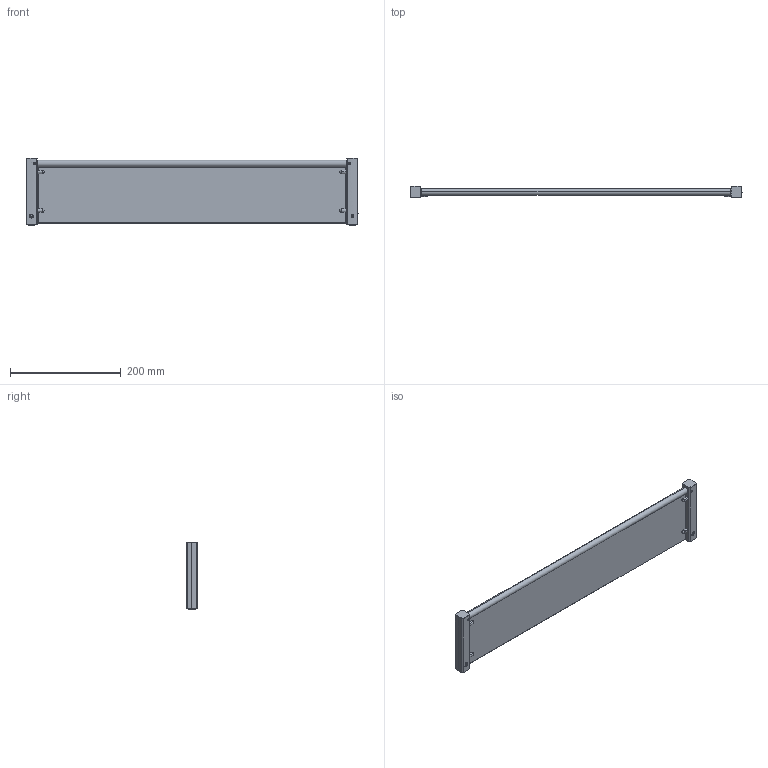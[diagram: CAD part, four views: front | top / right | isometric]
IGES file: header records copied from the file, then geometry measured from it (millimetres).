
Start section: SolidWorks IGES file using analytic representation for surfaces
Global section: file name: G:\Projects\New project\For Marketing\IGS\IGS\2015-12-4\385060002VW.IGS; native system: SolidWorks 2010; preprocessor: SolidWorks 2010; author: weijuan; date: 151201.151418; units: inch
Bounding box: 600 x 19.98 x 122.73 mm (x, y, z)
Surface area: 167358 mm2 (no closed solid volume)
Topology: 0 solids, 0 shells, 151 faces, 1485 edges, 1477 vertices
Faces by surface type: revolution 77, bspline 74
